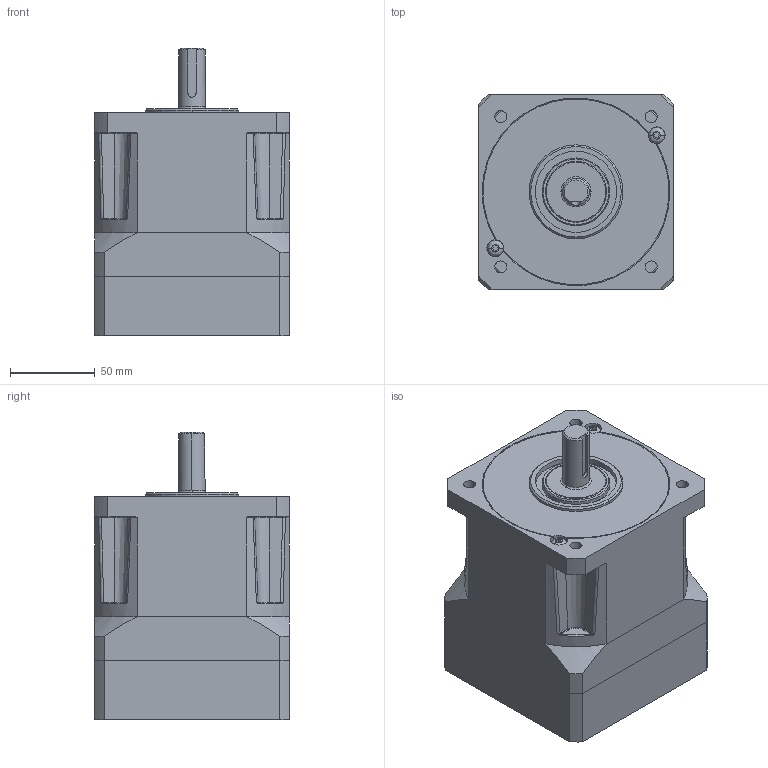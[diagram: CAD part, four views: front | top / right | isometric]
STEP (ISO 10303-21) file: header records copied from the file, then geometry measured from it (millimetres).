
FILE_DESCRIPTION((''),'2;1');
FILE_NAME('GEN_II_PX42_SINGLE_LONG_ADAPT','2008-11-20T',('aza7363'),(''),'PRO/ENGINEER BY PARAMETRIC TECHNOLOGY CORPORATION, 2006300','PRO/ENGINEER BY PARAMETRIC TECHNOLOGY CORPORATION, 2006300','');
FILE_SCHEMA(('CONFIG_CONTROL_DESIGN'));
Length unit declared in the file: millimetre
Products named in the file (1): GEN_II_PX42_SINGLE_LONG_ADAPT
Bounding box: 115 x 115 x 170.1 mm (x, y, z)
Surface area: 135316.6 mm2 (no closed solid volume)
Topology: 0 solids, 23 shells, 349 faces, 925 edges, 612 vertices
Faces by surface type: plane 142, cylinder 121, bspline 48, cone 24, torus 14
Entity records: 13211 total; most frequent: CARTESIAN_POINT 4659, DIRECTION 1776, ORIENTED_EDGE 1682, EDGE_CURVE 925, AXIS2_PLACEMENT_3D 670, VERTEX_POINT 612, VECTOR 436, LINE 436
